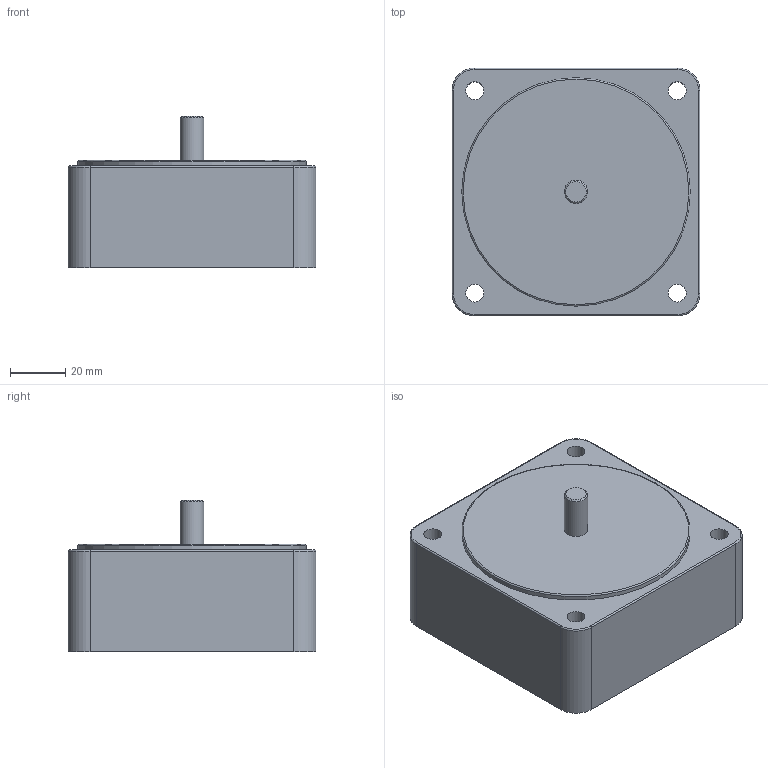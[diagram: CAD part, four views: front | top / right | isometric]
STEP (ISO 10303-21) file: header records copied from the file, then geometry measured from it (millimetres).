
FILE_DESCRIPTION((''),'2;1');
FILE_NAME('E:\2공장-도면\3D\표준형 3D(민규)\step file\감속기\K9G10BX.stp','2014-11-18T18:56:16',('AHN'),(''),'Autodesk Inventor 2012','Autodesk Inventor 2012','');
FILE_SCHEMA(('CONFIG_CONTROL_DESIGN'));
Length unit declared in the file: millimetre
Products named in the file (1): K9G10BX
Bounding box: 90 x 90 x 55 mm (x, y, z)
Volume: 304449.6 mm3; surface area: 32468.8 mm2
Topology: 1 solids, 1 shells, 28 faces, 62 edges, 38 vertices
Faces by surface type: cylinder 14, plane 8, torus 5, cone 1
Full cylindrical faces by diameter (mm): 6.5 x4, 8.5 x1, 83 x1
Entity records: 782 total; most frequent: DIRECTION 146, CARTESIAN_POINT 121, ORIENTED_EDGE 108, AXIS2_PLACEMENT_3D 63, EDGE_CURVE 54, EDGE_LOOP 46, VERTEX_POINT 38, CIRCLE 34
